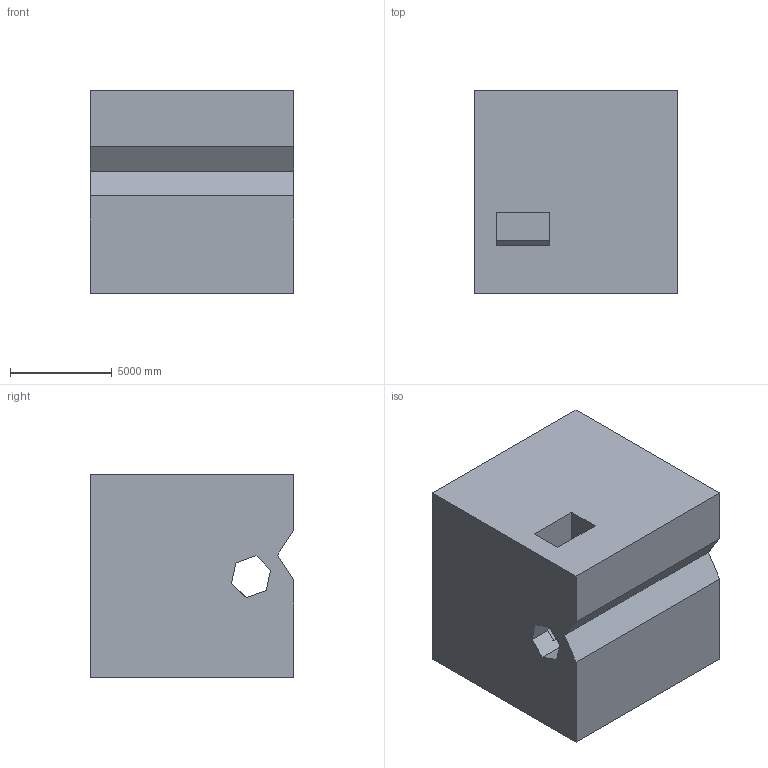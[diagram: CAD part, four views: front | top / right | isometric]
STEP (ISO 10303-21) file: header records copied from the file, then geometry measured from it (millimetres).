
FILE_DESCRIPTION (( 'STEP AP203' ), '1' );
FILE_NAME ('496.STEP', '2022-07-29T11:31:00', ( 'user' ), ( '' ), 'SwSTEP 2.0', 'SolidWorks 2021', '' );
FILE_SCHEMA (( 'CONFIG_CONTROL_DESIGN' ));
Length unit declared in the file: centimetre
Products named in the file (1): 496
Bounding box: 10000 x 10000 x 10000 mm (x, y, z)
Volume: 908492190446.9 mm3; surface area: 745149430.6 mm2
Topology: 1 solids, 1 shells, 30 faces, 84 edges, 56 vertices
Faces by surface type: plane 30
Entity records: 1033 total; most frequent: CARTESIAN_POINT 171, ORIENTED_EDGE 168, DIRECTION 146, LINE 84, EDGE_CURVE 84, VECTOR 84, VERTEX_POINT 56, EDGE_LOOP 34
